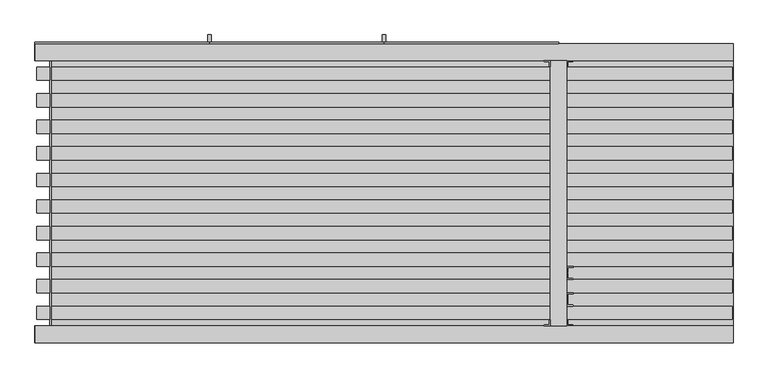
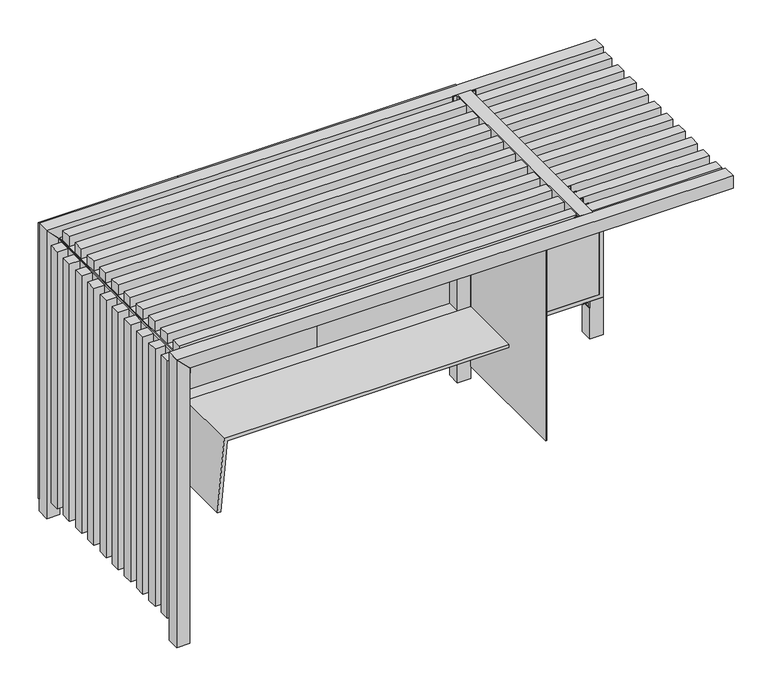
"""IFC4 building model written with IfcOpenShell, lengths in millimetres: proxy geometry, Ponto de ônibus_final : Ponto de ônibus_final."""

import ifcopenshell
import ifcopenshell.guid

model = None  # the IFC model being written
_history = None  # IfcOwnerHistory: only IFC2X3 demands one
_inside = {}  # id of a spatial element -> (the spatial element, [elements in it])
_under = {}  # id of a project, library or spatial element -> (it, [spatial elements below it])
_declared = {}  # id of a project -> (the project, [libraries it declares])
_typed = {}  # id of a type object -> (the type object, [elements of that type])
_made_of = {}  # id of a material, layer set ... -> (it, [elements and type objects made of it])


def new_model(schema):
    """Start an empty IFC model of exactly this schema.

    Asked for "IFC4X3", IfcOpenShell would pick the latest addendum, in which some entities
    have other attributes; the version numbers below select the first issue.
    IFC2X3 requires an IfcOwnerHistory on every rooted entity: one is made here for all.
    """
    global model, _history
    if schema == "IFC4X3":
        model = ifcopenshell.file(schema_version=(4, 3, 0, 0))
    else:
        model = ifcopenshell.file(schema=schema)
    _inside.clear()
    _under.clear()
    _declared.clear()
    _typed.clear()
    _made_of.clear()
    _history = None
    if model.schema == "IFC2X3":
        org = make("IfcOrganization", Name="unknown")
        user = make(
            "IfcPersonAndOrganization",
            ThePerson=make("IfcPerson", FamilyName="unknown"),
            TheOrganization=org,
        )
        app = make(
            "IfcApplication",
            ApplicationDeveloper=org,
            Version="unknown",
            ApplicationFullName="unknown",
            ApplicationIdentifier="unknown",
        )
        _history = make(
            "IfcOwnerHistory",
            OwningUser=user,
            OwningApplication=app,
            ChangeAction="ADDED",
            CreationDate=0,
        )
    return model


def make(cls, **values):
    """One entity of the class cls with the attributes given. An attribute that is None is left unset."""
    return model.create_entity(
        cls, **{name: value for name, value in values.items() if value is not None}
    )


def rooted(cls, **values):
    """An entity with a GlobalId (a new one), such as an element, a storey or a relation."""
    return make(cls, GlobalId=ifcopenshell.guid.new(), OwnerHistory=_history, **values)


def si_unit(unit_type, name, prefix=None):
    """IfcSIUnit, for example si_unit("LENGTHUNIT", "METRE", prefix="MILLI")."""
    return make("IfcSIUnit", UnitType=unit_type, Prefix=prefix, Name=name)


def assignment(units):
    """IfcUnitAssignment: the units of a project."""
    return None if units is None else make("IfcUnitAssignment", Units=units)


def point(xyz):
    """IfcCartesianPoint."""
    return None if xyz is None else make("IfcCartesianPoint", Coordinates=xyz)


def direction(xyz):
    """IfcDirection."""
    return None if xyz is None else make("IfcDirection", DirectionRatios=xyz)


def frame(location, z_axis=None, x_axis=None):
    """IfcAxis2Placement3D, a coordinate frame: its origin and axes. An axis left out is left unset."""
    return make(
        "IfcAxis2Placement3D",
        Location=point(location),
        Axis=direction(z_axis),
        RefDirection=direction(x_axis),
    )


def frame_2d(location, x_axis=None):
    """IfcAxis2Placement2D, a coordinate frame in the plane: its origin and x axis."""
    return make(
        "IfcAxis2Placement2D", Location=point(location), RefDirection=direction(x_axis)
    )


def origin():
    """The frame at (0, 0, 0) with its axes left unset."""
    return frame((0.0, 0.0, 0.0))


def origin_with_axes():
    """The frame at (0, 0, 0) with the z axis (0, 0, 1) and the x axis (1, 0, 0) written out."""
    return frame((0.0, 0.0, 0.0), z_axis=(0.0, 0.0, 1.0), x_axis=(1.0, 0.0, 0.0))


def place(relative_to, where):
    """IfcLocalPlacement: puts the frame where relative to a parent placement (None: the world)."""
    return make(
        "IfcLocalPlacement", PlacementRelTo=relative_to, RelativePlacement=where
    )


def context(
    kind, dimensions, precision=None, world=None, true_north=None, identifier=None
):
    """IfcGeometricRepresentationContext, for example the 3D "Model" context."""
    return make(
        "IfcGeometricRepresentationContext",
        ContextIdentifier=identifier,
        ContextType=kind,
        CoordinateSpaceDimension=dimensions,
        Precision=precision,
        WorldCoordinateSystem=world,
        TrueNorth=true_north,
    )


def project(units=None, contexts=None):
    """IfcProject with its units and contexts."""
    return rooted(
        "IfcProject",
        Name="project",
        RepresentationContexts=contexts,
        UnitsInContext=assignment(units),
    )


def spatial(cls, under=None, at=None, **own):
    """A site, building, storey or space (cls), placed at a placement, below another one or the project."""
    s = rooted(cls, ObjectPlacement=at, **own)
    if under is not None:
        _under.setdefault(under.id(), (under, []))[1].append(s)
    return s


def polyline(points):
    """IfcPolyline through the points."""
    return make("IfcPolyline", Points=[point(p) for p in points])


def circle_curve(where, radius):
    """IfcCircle in the frame where."""
    return make("IfcCircle", Position=where, Radius=radius)


def trimmed(basis, trim1, trim2, sense, master):
    """IfcTrimmedCurve: the piece of a basis curve between two trims."""
    return make(
        "IfcTrimmedCurve",
        BasisCurve=basis,
        Trim1=trim1,
        Trim2=trim2,
        SenseAgreement=sense,
        MasterRepresentation=master,
    )


def segment(curve, same_sense, transition):
    """IfcCompositeCurveSegment."""
    return make(
        "IfcCompositeCurveSegment",
        Transition=transition,
        SameSense=same_sense,
        ParentCurve=curve,
    )


def composite_curve(segments, self_intersect=None):
    """IfcCompositeCurve: segments joined end to end."""
    return make("IfcCompositeCurve", Segments=segments, SelfIntersect=self_intersect)


def outline(outer, holes=None, kind="AREA"):
    """IfcArbitraryClosedProfileDef: a profile drawn as a closed curve; with holes, ...WithVoids."""
    if holes is None:
        return make("IfcArbitraryClosedProfileDef", ProfileType=kind, OuterCurve=outer)
    return make(
        "IfcArbitraryProfileDefWithVoids",
        ProfileType=kind,
        OuterCurve=outer,
        InnerCurves=holes,
    )


def extrude(swept, where, along, depth):
    """IfcExtrudedAreaSolid: the profile swept, set in the frame where, extruded along a direction by depth."""
    return make(
        "IfcExtrudedAreaSolid",
        SweptArea=swept,
        Position=where,
        ExtrudedDirection=direction(along),
        Depth=depth,
    )


def shape(context_of_items, identifier, shape_type, items):
    """IfcShapeRepresentation: the items that make up one representation, for example the "Body"."""
    return make(
        "IfcShapeRepresentation",
        ContextOfItems=context_of_items,
        RepresentationIdentifier=identifier,
        RepresentationType=shape_type,
        Items=items,
    )


def source(mapping_origin, context_of_items, identifier, shape_type, items):
    """IfcRepresentationMap: a shape defined once, which mapped items show again and again."""
    return make(
        "IfcRepresentationMap",
        MappingOrigin=mapping_origin,
        MappedRepresentation=shape(context_of_items, identifier, shape_type, items),
    )


def transform(
    local_origin,
    x_axis=None,
    y_axis=None,
    z_axis=None,
    scale=None,
    scale2=None,
    scale3=None,
    uniform=True,
):
    """IfcCartesianTransformationOperator3D, or its non-uniform kind. x_axis, y_axis, z_axis: its Axis1, 2, 3."""
    if uniform:
        return make(
            "IfcCartesianTransformationOperator3D",
            Axis1=direction(x_axis),
            Axis2=direction(y_axis),
            LocalOrigin=point(local_origin),
            Scale=scale,
            Axis3=direction(z_axis),
        )
    return make(
        "IfcCartesianTransformationOperator3DnonUniform",
        Axis1=direction(x_axis),
        Axis2=direction(y_axis),
        LocalOrigin=point(local_origin),
        Scale=scale,
        Axis3=direction(z_axis),
        Scale2=scale2,
        Scale3=scale3,
    )


def mapped(mapping_source, mapping_target):
    """IfcMappedItem: shows the shape of a source again, moved by a transform."""
    return make(
        "IfcMappedItem", MappingSource=mapping_source, MappingTarget=mapping_target
    )


def made_of(thing, what):
    """Note that an element or type object is made of a material, layer set ...; save() writes the relation."""
    if what is not None:
        _made_of.setdefault(what.id(), (what, []))[1].append(thing)
    return thing


def element(
    cls,
    number,
    at=None,
    inside=None,
    cuts=None,
    type_object=None,
    material=None,
    context=None,
    identifier="Body",
    shape_type=None,
    held_by="IfcProductDefinitionShape",
    body=None,
    shapes=None,
    **own,
):
    """One element of the class cls, such as IfcWall. Its Tag is "e" and its number.

    at: its placement. inside: the storey or other place that contains it. cuts: it is an
    opening in that element (IfcRelVoidsElement). A single representation is given by context,
    identifier, shape_type and body (its items); several are given by shapes. held_by: the class
    of the entity that holds the representations. save() writes the other relations.
    """
    e = rooted(cls, Tag="e%d" % number, ObjectPlacement=at, **own)
    if body is not None:
        shapes = [shape(context, identifier, shape_type, body)]
    if shapes is not None:
        e.Representation = make(held_by, Representations=shapes)
    if inside is not None:
        _inside.setdefault(inside.id(), (inside, []))[1].append(e)
    if cuts is not None:
        rooted(
            "IfcRelVoidsElement", RelatingBuildingElement=cuts, RelatedOpeningElement=e
        )
    if type_object is not None:
        _typed.setdefault(type_object.id(), (type_object, []))[1].append(e)
    return made_of(e, material)


def aggregate(whole, parts):
    """IfcRelAggregates: a whole, such as a stair, and the parts it consists of."""
    return rooted("IfcRelAggregates", RelatingObject=whole, RelatedObjects=parts)


def save(model, path):
    """Write the relations noted so far, then the file.

    IfcRelAggregates (storeys below a building ...), IfcRelContainedInSpatialStructure (elements
    in a storey), IfcRelDefinesByType, IfcRelAssociatesMaterial and IfcRelDeclares: one each for
    every whole, place, type object, material and project.
    """
    for whole, parts in _under.values():
        aggregate(whole, parts)
    for where, things in _inside.values():
        rooted(
            "IfcRelContainedInSpatialStructure",
            RelatedElements=things,
            RelatingStructure=where,
        )
    for kind, things in _typed.values():
        rooted("IfcRelDefinesByType", RelatedObjects=things, RelatingType=kind)
    for what, things in _made_of.values():
        rooted("IfcRelAssociatesMaterial", RelatedObjects=things, RelatingMaterial=what)
    for by, libraries in _declared.values():
        rooted("IfcRelDeclares", RelatingContext=by, RelatedDefinitions=libraries)
    model.write(path)


def generic_models_c613b4f9(model_context):
    return source(origin(), model_context, "Body", "SweptSolid", [
        extrude(outline(composite_curve([segment(trimmed(circle_curve(frame_2d((1134.925, -1343.175)), 3.175), [point((1134.925, -1340.0))], [point((1134.925, -1346.35))], False, "CARTESIAN"), True, "CONTINUOUS"), segment(polyline([(1134.925, -1346.35), (1106.35, -1346.35), (1106.35, -1374.925)]), True, "CONTINUOUS"), segment(trimmed(circle_curve(frame_2d((1103.175, -1374.925)), 3.175), [point((1106.35, -1374.925))], [point((1100.0, -1374.925))], False, "CARTESIAN"), True, "CONTINUOUS"), segment(polyline([(1100.0, -1374.925), (1100.0, -1340.0), (1134.925, -1340.0)]), True, "CONTINUOUS")], self_intersect=False)), frame((0.0, 0.0, 2209.8799887), z_axis=(0.0, 0.0, 1.0), x_axis=(1.0, 0.0, 0.0)), (0.0, 0.0, 1.0), 70.1200113),
        extrude(outline(composite_curve([segment(polyline([(1134.925, -1420.0), (1100.0, -1420.0), (1100.0, -1385.075)]), True, "CONTINUOUS"), segment(trimmed(circle_curve(frame_2d((1103.175, -1385.075)), 3.175), [point((1100.0, -1385.075))], [point((1106.35, -1385.075))], False, "CARTESIAN"), True, "CONTINUOUS"), segment(polyline([(1106.35, -1385.075), (1106.35, -1413.65), (1134.925, -1413.65)]), True, "CONTINUOUS"), segment(trimmed(circle_curve(frame_2d((1134.925, -1416.825)), 3.175), [point((1134.925, -1413.65))], [point((1134.925, -1420.0))], False, "CARTESIAN"), True, "CONTINUOUS")], self_intersect=False)), frame((0.0, 0.0, 2210.0), z_axis=(0.0, 0.0, 1.0), x_axis=(1.0, 0.0, 0.0)), (0.0, 0.0, 1.0), 70.0),
        extrude(outline(composite_curve([segment(trimmed(circle_curve(frame_2d((1134.925, -1503.175)), 3.175), [point((1134.925, -1500.0))], [point((1134.925, -1506.35))], False, "CARTESIAN"), True, "CONTINUOUS"), segment(polyline([(1134.925, -1506.35), (1106.35, -1506.35), (1106.35, -1534.925)]), True, "CONTINUOUS"), segment(trimmed(circle_curve(frame_2d((1103.175, -1534.925)), 3.175), [point((1106.35, -1534.925))], [point((1100.0, -1534.925))], False, "CARTESIAN"), True, "CONTINUOUS"), segment(polyline([(1100.0, -1534.925), (1100.0, -1500.0), (1134.925, -1500.0)]), True, "CONTINUOUS")], self_intersect=False)), frame((0.0, 0.0, 2209.8799887), z_axis=(0.0, 0.0, 1.0), x_axis=(1.0, 0.0, 0.0)), (0.0, 0.0, 1.0), 70.1200113),
        extrude(outline(composite_curve([segment(polyline([(1134.925, -1580.0), (1100.0, -1580.0), (1100.0, -1545.075)]), True, "CONTINUOUS"), segment(trimmed(circle_curve(frame_2d((1103.175, -1545.075)), 3.175), [point((1100.0, -1545.075))], [point((1106.35, -1545.075))], False, "CARTESIAN"), True, "CONTINUOUS"), segment(polyline([(1106.35, -1545.075), (1106.35, -1573.65), (1134.925, -1573.65)]), True, "CONTINUOUS"), segment(trimmed(circle_curve(frame_2d((1134.925, -1576.825)), 3.175), [point((1134.925, -1573.65))], [point((1134.925, -1580.0))], False, "CARTESIAN"), True, "CONTINUOUS")], self_intersect=False)), frame((0.0, 0.0, 2210.0), z_axis=(0.0, 0.0, 1.0), x_axis=(1.0, 0.0, 0.0)), (0.0, 0.0, 1.0), 70.0),
        extrude(outline(composite_curve([segment(trimmed(circle_curve(frame_2d((296.825, 1952.375)), 3.175), [point((300.0, 1952.375))], [point((293.65, 1952.375))], False, "CARTESIAN"), True, "CONTINUOUS"), segment(polyline([(293.65, 1952.375), (293.65, 1993.65), (252.375, 1993.65)]), True, "CONTINUOUS"), segment(trimmed(circle_curve(frame_2d((252.375, 1996.825)), 3.175), [point((252.375, 1993.65))], [point((252.375, 2000.0))], False, "CARTESIAN"), True, "CONTINUOUS"), segment(polyline([(252.375, 2000.0), (300.0, 2000.0), (300.0, 1952.375)]), True, "CONTINUOUS")], self_intersect=False)), frame((0.0, -100.0, 0.0), z_axis=(0.0, 1.0, 0.0), x_axis=(0.0, 0.0, 1.0)), (0.0, 0.0, 1.0), 100.0),
        extrude(outline(composite_curve([segment(polyline([(500.0, -1952.375), (500.0, -2000.0), (452.375, -2000.0)]), True, "CONTINUOUS"), segment(trimmed(circle_curve(frame_2d((452.375, -1996.825)), 3.175), [point((452.375, -2000.0))], [point((452.375, -1993.65))], False, "CARTESIAN"), True, "CONTINUOUS"), segment(polyline([(452.375, -1993.65), (493.65, -1993.65), (493.65, -1952.375)]), True, "CONTINUOUS"), segment(trimmed(circle_curve(frame_2d((496.825, -1952.375)), 3.175), [point((493.65, -1952.375))], [point((500.0, -1952.375))], False, "CARTESIAN"), True, "CONTINUOUS")], self_intersect=False)), frame((0.0, -90.0, 0.0), z_axis=(0.0, 1.0, 0.0), x_axis=(0.0, 0.0, 1.0)), (0.0, 0.0, 1.0), 80.0),
        extrude(outline(composite_curve([segment(polyline([(2200.0, -1952.375), (2200.0, -2000.0), (2152.375, -2000.0)]), True, "CONTINUOUS"), segment(trimmed(circle_curve(frame_2d((2152.375, -1996.825)), 3.175), [point((2152.375, -2000.0))], [point((2152.375, -1993.65))], False, "CARTESIAN"), True, "CONTINUOUS"), segment(polyline([(2152.375, -1993.65), (2193.65, -1993.65), (2193.65, -1952.375)]), True, "CONTINUOUS"), segment(trimmed(circle_curve(frame_2d((2196.825, -1952.375)), 3.175), [point((2193.65, -1952.375))], [point((2200.0, -1952.375))], False, "CARTESIAN"), True, "CONTINUOUS")], self_intersect=False)), frame((0.0, -90.0, 0.0), z_axis=(0.0, 1.0, 0.0), x_axis=(0.0, 0.0, 1.0)), (0.0, 0.0, 1.0), 80.0),
        extrude(outline(composite_curve([segment(trimmed(circle_curve(frame_2d((2196.825, 952.375)), 3.175), [point((2200.0, 952.375))], [point((2193.65, 952.375))], False, "CARTESIAN"), True, "CONTINUOUS"), segment(polyline([(2193.65, 952.375), (2193.65, 993.65), (2152.375, 993.65)]), True, "CONTINUOUS"), segment(trimmed(circle_curve(frame_2d((2152.375, 996.825)), 3.175), [point((2152.375, 993.65))], [point((2152.375, 1000.0))], False, "CARTESIAN"), True, "CONTINUOUS"), segment(polyline([(2152.375, 1000.0), (2200.0, 1000.0), (2200.0, 952.375)]), True, "CONTINUOUS")], self_intersect=False)), frame((0.0, -100.0, 0.0), z_axis=(0.0, 1.0, 0.0), x_axis=(0.0, 0.0, 1.0)), (0.0, 0.0, 1.0), 100.0),
        extrude(outline(composite_curve([segment(polyline([(965.075, -100.0), (1000.0, -100.0), (1000.0, -134.925)]), True, "CONTINUOUS"), segment(trimmed(circle_curve(frame_2d((996.825, -134.925)), 3.175), [point((1000.0, -134.925))], [point((993.65, -134.925))], False, "CARTESIAN"), True, "CONTINUOUS"), segment(polyline([(993.65, -134.925), (993.65, -106.35), (965.075, -106.35)]), True, "CONTINUOUS"), segment(trimmed(circle_curve(frame_2d((965.075, -103.175)), 3.175), [point((965.075, -106.35))], [point((965.075, -100.0))], False, "CARTESIAN"), True, "CONTINUOUS")], self_intersect=False)), frame((0.0, 0.0, 2200.0), z_axis=(0.0, 0.0, 1.0), x_axis=(1.0, 0.0, 0.0)), (0.0, 0.0, 1.0), 100.0),
        extrude(outline(composite_curve([segment(trimmed(circle_curve(frame_2d((1134.925, -103.175)), 3.175), [point((1134.925, -100.0))], [point((1134.925, -106.35))], False, "CARTESIAN"), True, "CONTINUOUS"), segment(polyline([(1134.925, -106.35), (1106.35, -106.35), (1106.35, -134.925)]), True, "CONTINUOUS"), segment(trimmed(circle_curve(frame_2d((1103.175, -134.925)), 3.175), [point((1106.35, -134.925))], [point((1100.0, -134.925))], False, "CARTESIAN"), True, "CONTINUOUS"), segment(polyline([(1100.0, -134.925), (1100.0, -100.0), (1134.925, -100.0)]), True, "CONTINUOUS")], self_intersect=False)), frame((0.0, 0.0, 2209.8799887), z_axis=(0.0, 0.0, 1.0), x_axis=(1.0, 0.0, 0.0)), (0.0, 0.0, 1.0), 80.2400226),
        extrude(outline(composite_curve([segment(polyline([(1134.925, -1700.0), (1100.0, -1700.0), (1100.0, -1665.075)]), True, "CONTINUOUS"), segment(trimmed(circle_curve(frame_2d((1103.175, -1665.075)), 3.175), [point((1100.0, -1665.075))], [point((1106.35, -1665.075))], False, "CARTESIAN"), True, "CONTINUOUS"), segment(polyline([(1106.35, -1665.075), (1106.35, -1693.65), (1134.925, -1693.65)]), True, "CONTINUOUS"), segment(trimmed(circle_curve(frame_2d((1134.925, -1696.825)), 3.175), [point((1134.925, -1693.65))], [point((1134.925, -1700.0))], False, "CARTESIAN"), True, "CONTINUOUS")], self_intersect=False)), frame((0.0, 0.0, 2210.0), z_axis=(0.0, 0.0, 1.0), x_axis=(1.0, 0.0, 0.0)), (0.0, 0.0, 1.0), 80.0),
        extrude(outline(composite_curve([segment(trimmed(circle_curve(frame_2d((965.075, -1696.825)), 3.175), [point((965.075, -1700.0))], [point((965.075, -1693.65))], False, "CARTESIAN"), True, "CONTINUOUS"), segment(polyline([(965.075, -1693.65), (993.65, -1693.65), (993.65, -1665.075)]), True, "CONTINUOUS"), segment(trimmed(circle_curve(frame_2d((996.825, -1665.075)), 3.175), [point((993.65, -1665.075))], [point((1000.0, -1665.075))], False, "CARTESIAN"), True, "CONTINUOUS"), segment(polyline([(1000.0, -1665.075), (1000.0, -1700.0), (965.075, -1700.0)]), True, "CONTINUOUS")], self_intersect=False)), frame((0.0, 0.0, 2200.0), z_axis=(0.0, 0.0, 1.0), x_axis=(1.0, 0.0, 0.0)), (0.0, 0.0, 1.0), 100.0),
        extrude(outline(composite_curve([segment(polyline([(2200.0, -1952.375), (2200.0, -2000.0), (2152.375, -2000.0)]), True, "CONTINUOUS"), segment(trimmed(circle_curve(frame_2d((2152.375, -1996.825)), 3.175), [point((2152.375, -2000.0))], [point((2152.375, -1993.65))], False, "CARTESIAN"), True, "CONTINUOUS"), segment(polyline([(2152.375, -1993.65), (2193.65, -1993.65), (2193.65, -1952.375)]), True, "CONTINUOUS"), segment(trimmed(circle_curve(frame_2d((2196.825, -1952.375)), 3.175), [point((2193.65, -1952.375))], [point((2200.0, -1952.375))], False, "CARTESIAN"), True, "CONTINUOUS")], self_intersect=False)), frame((0.0, -1790.0, 0.0), z_axis=(0.0, 1.0, 0.0), x_axis=(0.0, 0.0, 1.0)), (0.0, 0.0, 1.0), 80.0),
        extrude(outline(composite_curve([segment(trimmed(circle_curve(frame_2d((522.8437441, -1049.4844374)), 10.6321315), [point((522.8437441, -1060.1165689))], [point((522.8437441, -1038.8523058))], False, "CARTESIAN"), True, "CONTINUOUS"), segment(trimmed(circle_curve(frame_2d((522.8437441, -1049.4844374)), 10.6321315), [point((522.8437441, -1038.8523058))], [point((522.8437441, -1060.1165689))], False, "CARTESIAN"), True, "CONTINUOUS")], self_intersect=False)), frame((0.0, 0.0, 0.0), z_axis=(0.0, 1.0, 0.0), x_axis=(0.0, 0.0, 1.0)), (0.0, 0.0, 1.0), 54.0068182),
        extrude(outline(composite_curve([segment(trimmed(circle_curve(frame_2d((522.8437441, 1.0311253)), 10.6321315), [point((522.8437441, -9.6010063))], [point((522.8437441, 11.6632568))], False, "CARTESIAN"), True, "CONTINUOUS"), segment(trimmed(circle_curve(frame_2d((522.8437441, 1.0311253)), 10.6321315), [point((522.8437441, 11.6632568))], [point((522.8437441, -9.6010063))], False, "CARTESIAN"), True, "CONTINUOUS")], self_intersect=False)), frame((0.0, 0.0, 0.0), z_axis=(0.0, 1.0, 0.0), x_axis=(0.0, 0.0, 1.0)), (0.0, 0.0, 1.0), 54.0068182),
        extrude(outline(composite_curve([segment(trimmed(circle_curve(frame_2d((2222.8437441, -1049.4844374)), 10.6321315), [point((2222.8437441, -1060.1165689))], [point((2222.8437441, -1038.8523058))], False, "CARTESIAN"), True, "CONTINUOUS"), segment(trimmed(circle_curve(frame_2d((2222.8437441, -1049.4844374)), 10.6321315), [point((2222.8437441, -1038.8523058))], [point((2222.8437441, -1060.1165689))], False, "CARTESIAN"), True, "CONTINUOUS")], self_intersect=False)), frame((0.0, 0.0, 0.0), z_axis=(0.0, 1.0, 0.0), x_axis=(0.0, 0.0, 1.0)), (0.0, 0.0, 1.0), 54.0068182),
        extrude(outline(composite_curve([segment(trimmed(circle_curve(frame_2d((2222.8437441, 1.0311253)), 10.6321315), [point((2222.8437441, -9.6010063))], [point((2222.8437441, 11.6632568))], False, "CARTESIAN"), True, "CONTINUOUS"), segment(trimmed(circle_curve(frame_2d((2222.8437441, 1.0311253)), 10.6321315), [point((2222.8437441, 11.6632568))], [point((2222.8437441, -9.6010063))], False, "CARTESIAN"), True, "CONTINUOUS")], self_intersect=False)), frame((0.0, 0.0, 0.0), z_axis=(0.0, 1.0, 0.0), x_axis=(0.0, 0.0, 1.0)), (0.0, 0.0, 1.0), 54.0068182),
        extrude(outline(polyline([(2070.0, -100.0), (1130.0, -100.0), (1130.0, -90.0), (2070.0, -90.0), (2070.0, -100.0)])), frame((0.0, 0.0, 330.0), z_axis=(0.0, 0.0, 1.0), x_axis=(1.0, 0.0, 0.0)), (0.0, 0.0, 1.0), 1840.0),
        extrude(outline(polyline([(2070.0, -80.0), (1130.0, -80.0), (1130.0, 0.0), (2070.0, 0.0), (2070.0, -80.0)])), frame((0.0, 0.0, 330.0), z_axis=(0.0, 0.0, 1.0), x_axis=(1.0, 0.0, 0.0)), (0.0, 0.0, 1.0), 1840.0),
        extrude(outline(polyline([(300.0, 2100.0), (2200.0, 2100.0), (2200.0, 1100.0), (300.0, 1100.0), (300.0, 2100.0)]), holes=[polyline([(2170.0, 2070.0), (330.0, 2070.0), (330.0, 1130.0), (2170.0, 1130.0), (2170.0, 2070.0)])]), frame((0.0, -100.0, 0.0), z_axis=(0.0, 1.0, 0.0), x_axis=(0.0, 0.0, 1.0)), (0.0, 0.0, 1.0), 100.0),
        extrude(outline(polyline([(2100.0, -100.0), (2000.0, -100.0), (2000.0, 0.0), (2100.0, 0.0), (2100.0, -100.0)])), origin_with_axes(), (0.0, 0.0, 1.0), 300.0),
        extrude(outline(polyline([(0.0, -1099.7904189), (0.0, -1074.694923), (550.0, -1026.576158), (550.0, 1100.0), (575.0, 1100.0), (575.0, -1049.4844374), (0.0, -1099.7904189)])), frame((0.0, -600.0, 0.0), z_axis=(0.0, 1.0, 0.0), x_axis=(0.0, 0.0, 1.0)), (0.0, 0.0, 1.0), 500.0),
        extrude(outline(polyline([(1100.0, -1080.0), (1100.0, -100.0), (1110.0, -100.0), (1110.0, -1080.0), (1100.0, -1080.0)])), frame((0.0, 0.0, 96.1574147), z_axis=(0.0, 0.0, 1.0), x_axis=(1.0, 0.0, 0.0)), (0.0, 0.0, 1.0), 2103.8425853),
        extrude(outline(polyline([(1051.5466879, 10.0), (1051.5466879, 0.0), (1.0311253, 0.0), (1.0311253, 10.0), (1051.5466879, 10.0)])), frame((0.0, 0.0, 96.1574147), z_axis=(0.0, 0.0, 1.0), x_axis=(1.0, 0.0, 0.0)), (0.0, 0.0, 1.0), 2203.8425853),
        extrude(outline(polyline([(1.0311253, 10.0), (1.0311253, 0.0), (-1049.4844374, 0.0), (-1049.4844374, 10.0), (1.0311253, 10.0)])), frame((0.0, 0.0, 96.1574147), z_axis=(0.0, 0.0, 1.0), x_axis=(1.0, 0.0, 0.0)), (0.0, 0.0, 1.0), 2203.8425853),
        extrude(outline(polyline([(-1049.4844374, 10.0), (-1049.4844374, 0.0), (-2100.0, 0.0), (-2100.0, 10.0), (-1049.4844374, 10.0)])), frame((0.0, 0.0, 96.1574147), z_axis=(0.0, 0.0, 1.0), x_axis=(1.0, 0.0, 0.0)), (0.0, 0.0, 1.0), 2203.8425853),
        extrude(outline(polyline([(2100.0, -100.0), (2100.0, -1700.0), (1100.0, -1700.0), (1100.0, -100.0), (2100.0, -100.0)])), frame((0.0, 0.0, 2200.0), z_axis=(0.0, 0.0, 1.0), x_axis=(1.0, 0.0, 0.0)), (0.0, 0.0, 1.0), 10.0),
        extrude(outline(polyline([(1000.0, -100.0), (1000.0, -1700.0), (-2000.0, -1700.0), (-2000.0, -100.0), (1000.0, -100.0)])), frame((0.0, 0.0, 2200.0), z_axis=(0.0, 0.0, 1.0), x_axis=(1.0, 0.0, 0.0)), (0.0, 0.0, 1.0), 10.0),
        extrude(outline(polyline([(1000.0, -140.0), (1000.0, -220.0), (-2000.0, -220.0), (-2000.0, -140.0), (1000.0, -140.0)])), frame((0.0, 0.0, 2210.0), z_axis=(0.0, 0.0, 1.0), x_axis=(1.0, 0.0, 0.0)), (0.0, 0.0, 1.0), 80.0),
        extrude(outline(polyline([(1000.0, -300.0), (1000.0, -380.0), (-2000.0, -380.0), (-2000.0, -300.0), (1000.0, -300.0)])), frame((0.0, 0.0, 2210.0), z_axis=(0.0, 0.0, 1.0), x_axis=(1.0, 0.0, 0.0)), (0.0, 0.0, 1.0), 80.0),
        extrude(outline(polyline([(1000.0, -460.0), (1000.0, -540.0), (-2000.0, -540.0), (-2000.0, -460.0), (1000.0, -460.0)])), frame((0.0, 0.0, 2210.0), z_axis=(0.0, 0.0, 1.0), x_axis=(1.0, 0.0, 0.0)), (0.0, 0.0, 1.0), 80.0),
        extrude(outline(polyline([(1000.0, -620.0), (1000.0, -700.0), (-2000.0, -700.0), (-2000.0, -620.0), (1000.0, -620.0)])), frame((0.0, 0.0, 2210.0), z_axis=(0.0, 0.0, 1.0), x_axis=(1.0, 0.0, 0.0)), (0.0, 0.0, 1.0), 80.0),
        extrude(outline(polyline([(1000.0, -780.0), (1000.0, -860.0), (-2000.0, -860.0), (-2000.0, -780.0), (1000.0, -780.0)])), frame((0.0, 0.0, 2210.0), z_axis=(0.0, 0.0, 1.0), x_axis=(1.0, 0.0, 0.0)), (0.0, 0.0, 1.0), 80.0),
        extrude(outline(polyline([(1000.0, -940.0), (1000.0, -1020.0), (-2000.0, -1020.0), (-2000.0, -940.0), (1000.0, -940.0)])), frame((0.0, 0.0, 2210.0), z_axis=(0.0, 0.0, 1.0), x_axis=(1.0, 0.0, 0.0)), (0.0, 0.0, 1.0), 80.0),
        extrude(outline(polyline([(1000.0, -1100.0), (1000.0, -1180.0), (-2000.0, -1180.0), (-2000.0, -1100.0), (1000.0, -1100.0)])), frame((0.0, 0.0, 2210.0), z_axis=(0.0, 0.0, 1.0), x_axis=(1.0, 0.0, 0.0)), (0.0, 0.0, 1.0), 80.0),
        extrude(outline(polyline([(1000.0, -1260.0), (1000.0, -1340.0), (-2000.0, -1340.0), (-2000.0, -1260.0), (1000.0, -1260.0)])), frame((0.0, 0.0, 2210.0), z_axis=(0.0, 0.0, 1.0), x_axis=(1.0, 0.0, 0.0)), (0.0, 0.0, 1.0), 80.0),
        extrude(outline(polyline([(1000.0, -1420.0), (1000.0, -1500.0), (-2000.0, -1500.0), (-2000.0, -1420.0), (1000.0, -1420.0)])), frame((0.0, 0.0, 2210.0), z_axis=(0.0, 0.0, 1.0), x_axis=(1.0, 0.0, 0.0)), (0.0, 0.0, 1.0), 80.0),
        extrude(outline(polyline([(1000.0, -1580.0), (1000.0, -1660.0), (-2000.0, -1660.0), (-2000.0, -1580.0), (1000.0, -1580.0)])), frame((0.0, 0.0, 2210.0), z_axis=(0.0, 0.0, 1.0), x_axis=(1.0, 0.0, 0.0)), (0.0, 0.0, 1.0), 80.0),
        extrude(outline(polyline([(-2010.0, -140.0), (-2010.0, -220.0), (-2090.0, -220.0), (-2090.0, -140.0), (-2010.0, -140.0)])), frame((0.0, 0.0, 146.1574147), z_axis=(0.0, 0.0, 1.0), x_axis=(1.0, 0.0, 0.0)), (0.0, 0.0, 1.0), 2053.8425853),
        extrude(outline(polyline([(-2010.0, -300.0), (-2010.0, -380.0), (-2090.0, -380.0), (-2090.0, -300.0), (-2010.0, -300.0)])), frame((0.0, 0.0, 146.1574147), z_axis=(0.0, 0.0, 1.0), x_axis=(1.0, 0.0, 0.0)), (0.0, 0.0, 1.0), 2053.8425853),
        extrude(outline(polyline([(-2010.0, -460.0), (-2010.0, -540.0), (-2090.0, -540.0), (-2090.0, -460.0), (-2010.0, -460.0)])), frame((0.0, 0.0, 146.1574147), z_axis=(0.0, 0.0, 1.0), x_axis=(1.0, 0.0, 0.0)), (0.0, 0.0, 1.0), 2053.8425853),
        extrude(outline(polyline([(-2010.0, -620.0), (-2010.0, -700.0), (-2090.0, -700.0), (-2090.0, -620.0), (-2010.0, -620.0)])), frame((0.0, 0.0, 146.1574147), z_axis=(0.0, 0.0, 1.0), x_axis=(1.0, 0.0, 0.0)), (0.0, 0.0, 1.0), 2053.8425853),
        extrude(outline(polyline([(-2010.0, -780.0), (-2010.0, -860.0), (-2090.0, -860.0), (-2090.0, -780.0), (-2010.0, -780.0)])), frame((0.0, 0.0, 146.1574147), z_axis=(0.0, 0.0, 1.0), x_axis=(1.0, 0.0, 0.0)), (0.0, 0.0, 1.0), 2053.8425853),
        extrude(outline(polyline([(-2010.0, -940.0), (-2010.0, -1020.0), (-2090.0, -1020.0), (-2090.0, -940.0), (-2010.0, -940.0)])), frame((0.0, 0.0, 146.1574147), z_axis=(0.0, 0.0, 1.0), x_axis=(1.0, 0.0, 0.0)), (0.0, 0.0, 1.0), 2053.8425853),
        extrude(outline(polyline([(-2010.0, -1100.0), (-2010.0, -1180.0), (-2090.0, -1180.0), (-2090.0, -1100.0), (-2010.0, -1100.0)])), frame((0.0, 0.0, 146.1574147), z_axis=(0.0, 0.0, 1.0), x_axis=(1.0, 0.0, 0.0)), (0.0, 0.0, 1.0), 2053.8425853),
        extrude(outline(polyline([(-2010.0, -1260.0), (-2010.0, -1340.0), (-2090.0, -1340.0), (-2090.0, -1260.0), (-2010.0, -1260.0)])), frame((0.0, 0.0, 146.1574147), z_axis=(0.0, 0.0, 1.0), x_axis=(1.0, 0.0, 0.0)), (0.0, 0.0, 1.0), 2053.8425853),
        extrude(outline(polyline([(-2010.0, -1420.0), (-2010.0, -1500.0), (-2090.0, -1500.0), (-2090.0, -1420.0), (-2010.0, -1420.0)])), frame((0.0, 0.0, 146.1574147), z_axis=(0.0, 0.0, 1.0), x_axis=(1.0, 0.0, 0.0)), (0.0, 0.0, 1.0), 2053.8425853),
        extrude(outline(polyline([(-2010.0, -1580.0), (-2010.0, -1660.0), (-2090.0, -1660.0), (-2090.0, -1580.0), (-2010.0, -1580.0)])), frame((0.0, 0.0, 146.1574147), z_axis=(0.0, 0.0, 1.0), x_axis=(1.0, 0.0, 0.0)), (0.0, 0.0, 1.0), 2053.8425853),
        extrude(outline(polyline([(-2010.0, -100.0), (-2000.0, -100.0), (-2000.0, -1700.0), (-2010.0, -1700.0), (-2010.0, -100.0)])), frame((0.0, 0.0, 146.1574147), z_axis=(0.0, 0.0, 1.0), x_axis=(1.0, 0.0, 0.0)), (0.0, 0.0, 1.0), 2053.8425853),
        extrude(outline(polyline([(2095.0, -140.0), (2095.0, -220.0), (1100.0, -220.0), (1100.0, -140.0), (2095.0, -140.0)])), frame((0.0, 0.0, 2200.0), z_axis=(0.0, 0.0, 1.0), x_axis=(1.0, 0.0, 0.0)), (0.0, 0.0, 1.0), 80.0),
        extrude(outline(polyline([(2095.0, -300.0), (2095.0, -380.0), (1100.0, -380.0), (1100.0, -300.0), (2095.0, -300.0)])), frame((0.0, 0.0, 2200.0), z_axis=(0.0, 0.0, 1.0), x_axis=(1.0, 0.0, 0.0)), (0.0, 0.0, 1.0), 80.0),
        extrude(outline(polyline([(2095.0, -460.0), (2095.0, -540.0), (1100.0, -540.0), (1100.0, -460.0), (2095.0, -460.0)])), frame((0.0, 0.0, 2200.0), z_axis=(0.0, 0.0, 1.0), x_axis=(1.0, 0.0, 0.0)), (0.0, 0.0, 1.0), 80.0),
        extrude(outline(polyline([(2095.0, -620.0), (2095.0, -700.0), (1100.0, -700.0), (1100.0, -620.0), (2095.0, -620.0)])), frame((0.0, 0.0, 2200.0), z_axis=(0.0, 0.0, 1.0), x_axis=(1.0, 0.0, 0.0)), (0.0, 0.0, 1.0), 80.0),
        extrude(outline(polyline([(2095.0, -780.0), (2095.0, -860.0), (1100.0, -860.0), (1100.0, -780.0), (2095.0, -780.0)])), frame((0.0, 0.0, 2200.0), z_axis=(0.0, 0.0, 1.0), x_axis=(1.0, 0.0, 0.0)), (0.0, 0.0, 1.0), 80.0),
        extrude(outline(polyline([(2095.0, -940.0), (2095.0, -1020.0), (1100.0, -1020.0), (1100.0, -940.0), (2095.0, -940.0)])), frame((0.0, 0.0, 2200.0), z_axis=(0.0, 0.0, 1.0), x_axis=(1.0, 0.0, 0.0)), (0.0, 0.0, 1.0), 80.0),
        extrude(outline(polyline([(2095.0, -1100.0), (2095.0, -1180.0), (1100.0, -1180.0), (1100.0, -1100.0), (2095.0, -1100.0)])), frame((0.0, 0.0, 2200.0), z_axis=(0.0, 0.0, 1.0), x_axis=(1.0, 0.0, 0.0)), (0.0, 0.0, 1.0), 80.0),
        extrude(outline(polyline([(2095.0, -1260.0), (2095.0, -1340.0), (1100.0, -1340.0), (1100.0, -1260.0), (2095.0, -1260.0)])), frame((0.0, 0.0, 2200.0), z_axis=(0.0, 0.0, 1.0), x_axis=(1.0, 0.0, 0.0)), (0.0, 0.0, 1.0), 80.0),
        extrude(outline(polyline([(2095.0, -1420.0), (2095.0, -1500.0), (1100.0, -1500.0), (1100.0, -1420.0), (2095.0, -1420.0)])), frame((0.0, 0.0, 2200.0), z_axis=(0.0, 0.0, 1.0), x_axis=(1.0, 0.0, 0.0)), (0.0, 0.0, 1.0), 80.0),
        extrude(outline(polyline([(2095.0, -1580.0), (2095.0, -1660.0), (1100.0, -1660.0), (1100.0, -1580.0), (2095.0, -1580.0)])), frame((0.0, 0.0, 2200.0), z_axis=(0.0, 0.0, 1.0), x_axis=(1.0, 0.0, 0.0)), (0.0, 0.0, 1.0), 80.0),
        extrude(outline(polyline([(1000.0, -100.0), (-2000.0, -100.0), (-2000.0, 0.0), (1000.0, 0.0), (1000.0, -100.0)])), frame((0.0, 0.0, 500.0), z_axis=(0.0, 0.0, 1.0), x_axis=(1.0, 0.0, 0.0)), (0.0, 0.0, 1.0), 75.0),
        extrude(outline(polyline([(1100.0, -100.0), (1100.0, -1700.0), (1000.0, -1700.0), (1000.0, -100.0), (1100.0, -100.0)])), frame((0.0, 0.0, 2200.0), z_axis=(0.0, 0.0, 1.0), x_axis=(1.0, 0.0, 0.0)), (0.0, 0.0, 1.0), 100.0),
        extrude(outline(polyline([(1100.0, -100.0), (1000.0, -100.0), (1000.0, 0.0), (1100.0, 0.0), (1100.0, -100.0)])), origin_with_axes(), (0.0, 0.0, 1.0), 2200.0),
        extrude(outline(polyline([(2300.0, 2100.0), (2300.0, -2100.0), (2200.0, -2000.0), (2200.0, 2100.0), (2300.0, 2100.0)])), frame((0.0, -1800.0, 0.0), z_axis=(0.0, 1.0, 0.0), x_axis=(0.0, 0.0, 1.0)), (0.0, 0.0, 1.0), 100.0),
        extrude(outline(polyline([(2300.0, 2100.0), (2300.0, -2100.0), (2200.0, -2000.0), (2200.0, 2100.0), (2300.0, 2100.0)])), frame((0.0, -100.0, 0.0), z_axis=(0.0, 1.0, 0.0), x_axis=(0.0, 0.0, 1.0)), (0.0, 0.0, 1.0), 100.0),
        extrude(outline(polyline([(0.0, -2000.0), (2200.0, -2000.0), (2300.0, -2100.0), (0.0, -2100.0), (0.0, -2000.0)])), frame((0.0, -1800.0, 0.0), z_axis=(0.0, 1.0, 0.0), x_axis=(0.0, 0.0, 1.0)), (0.0, 0.0, 1.0), 100.0),
        extrude(outline(polyline([(0.0, -2000.0), (2200.0, -2000.0), (2300.0, -2100.0), (0.0, -2100.0), (0.0, -2000.0)])), frame((0.0, -100.0, 0.0), z_axis=(0.0, 1.0, 0.0), x_axis=(0.0, 0.0, 1.0)), (0.0, 0.0, 1.0), 100.0),
    ])


if __name__ == "__main__":
    model = new_model("IFC4")
    model_context = context("Model", 3, world=origin())
    ifc_project = project(units=[si_unit("LENGTHUNIT", "METRE", prefix="MILLI")], contexts=[model_context])
    site = spatial("IfcSite", under=ifc_project)
    building = spatial("IfcBuilding", under=site)
    placement = place(None, origin())
    generic_models_shape = generic_models_c613b4f9(model_context)
    element("IfcBuildingElementProxy", 1, Name="Ponto de ônibus_final : Ponto de ônibus_final", ObjectType="Ponto de ônibus_final : Ponto de ônibus_final", at=placement, inside=building, context=model_context, shape_type="MappedRepresentation", body=[
        mapped(generic_models_shape, transform((0.0, 0.0, 0.0), x_axis=(1.0, 0.0, 0.0), y_axis=(0.0, 1.0, 0.0), z_axis=(0.0, 0.0, 1.0))),
    ])
    save(model, "model.ifc")
